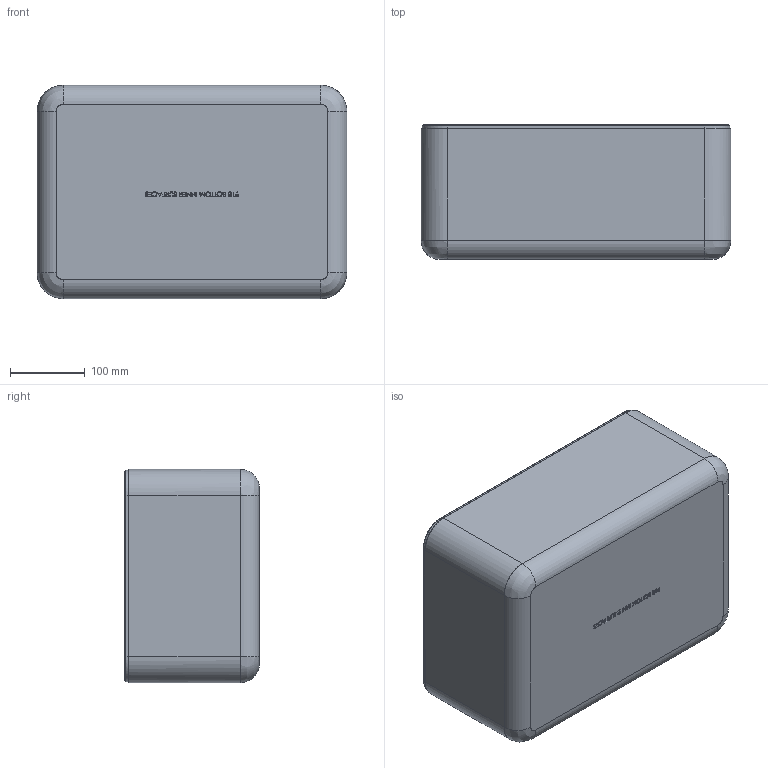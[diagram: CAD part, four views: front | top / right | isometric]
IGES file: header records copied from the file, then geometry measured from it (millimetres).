
Start section: SolidWorks IGES file using analytic representation for surfaces
Global section: file name: C:\Working Folder\918 933 acc panel\918\inside surface\918_Bottom_INNER SURFACES.IGS; native system: SolidWorks 2015; preprocessor: SolidWorks 2015; author: MKeighan; date: 160504.132246; units: inch
Bounding box: 414.82 x 180.72 x 285.79 mm (x, y, z)
Surface area: 655563.1 mm2 (no closed solid volume)
Topology: 0 solids, 0 shells, 974 faces, 12386 edges, 12381 vertices
Faces by surface type: bspline 798, revolution 176
